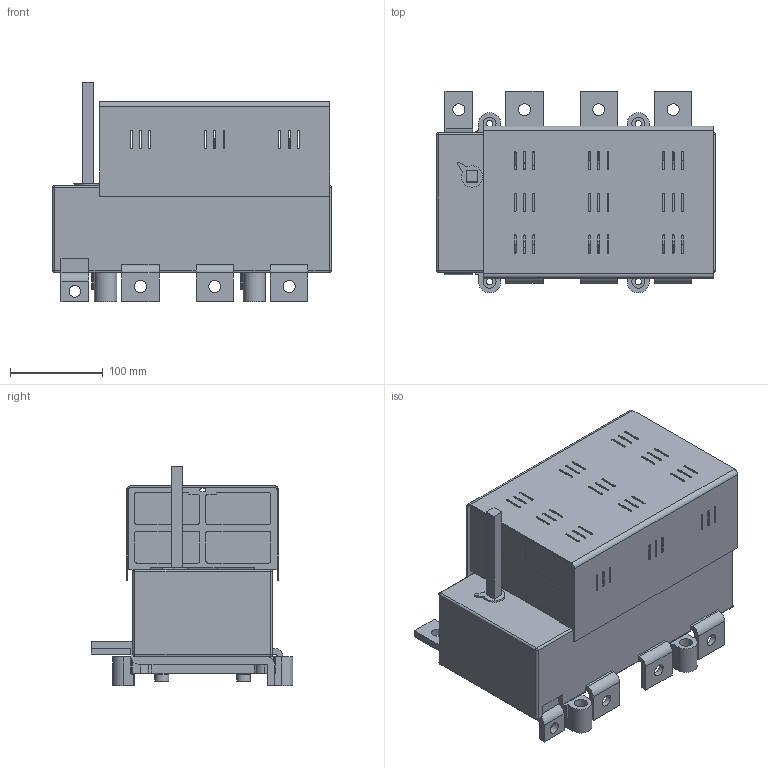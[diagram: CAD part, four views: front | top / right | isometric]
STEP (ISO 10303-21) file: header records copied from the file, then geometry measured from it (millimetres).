
FILE_DESCRIPTION(/* description */ (''),/* implementation_level */ '2;1');
FILE_NAME(/* name */ 'RAB 3 P3 NA.stp',/* time_stamp */ '2021-08-19T14:49:12+02:00',/* author */ (''),/* organization */ (''),/* preprocessor_version */ 'ST-DEVELOPER v18.1',/* originating_system */ 'SIEMENS PLM Software NX 1965',/* authorisation */ '');
FILE_SCHEMA (('PROCESS_PLANNING_SCHEMA'));
Length unit declared in the file: millimetre
Products named in the file (1): RAB 3 P3 NA_stp
Bounding box: 300 x 217 x 236 mm (x, y, z)
Volume: 4516223.4 mm3; surface area: 643257.5 mm2
Topology: 1 solids, 14 shells, 1580 faces, 4285 edges, 2747 vertices
Faces by surface type: plane 916, cylinder 554, bspline 50, torus 44, cone 8, sphere 8
Full cylindrical faces by diameter (mm): 3 x4, 4.8 x4, 5.2 x2, 5.6 x4, 6.5 x26, 7 x4, 10.5 x26, 12.5 x1, 13 x7, 13.5 x4, 14 x4, 15 x4
Entity records: 51527 total; most frequent: CARTESIAN_POINT 11507, DIRECTION 8284, ORIENTED_EDGE 8260, EDGE_CURVE 4130, LINE 2798, VECTOR 2798, AXIS2_PLACEMENT_3D 2743, VERTEX_POINT 2718
